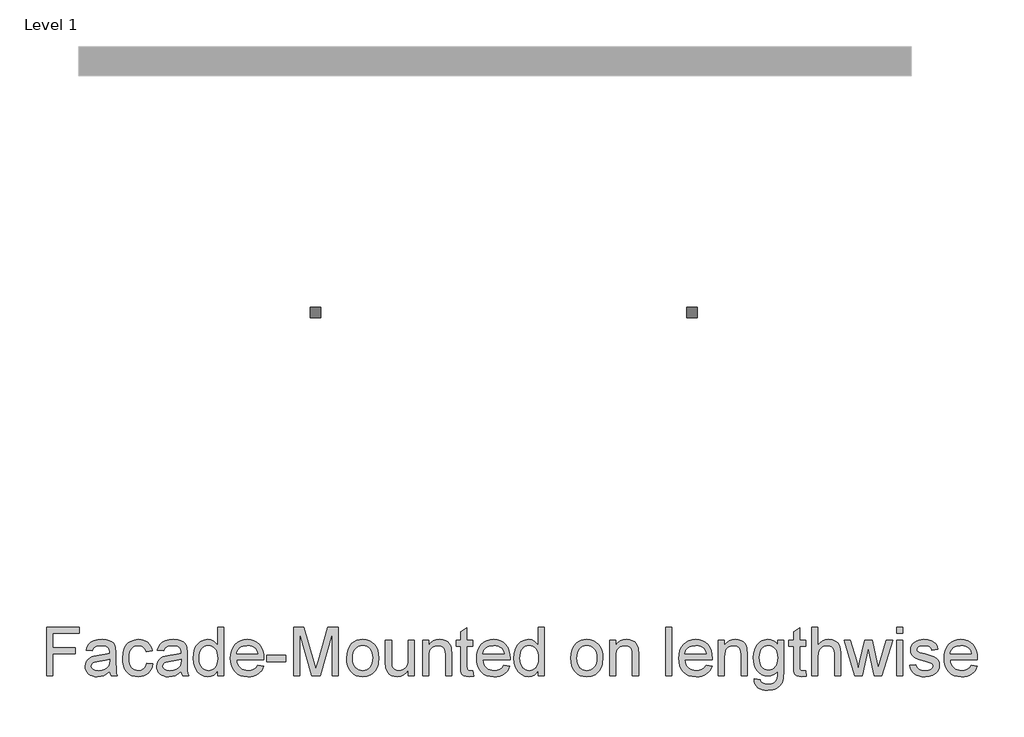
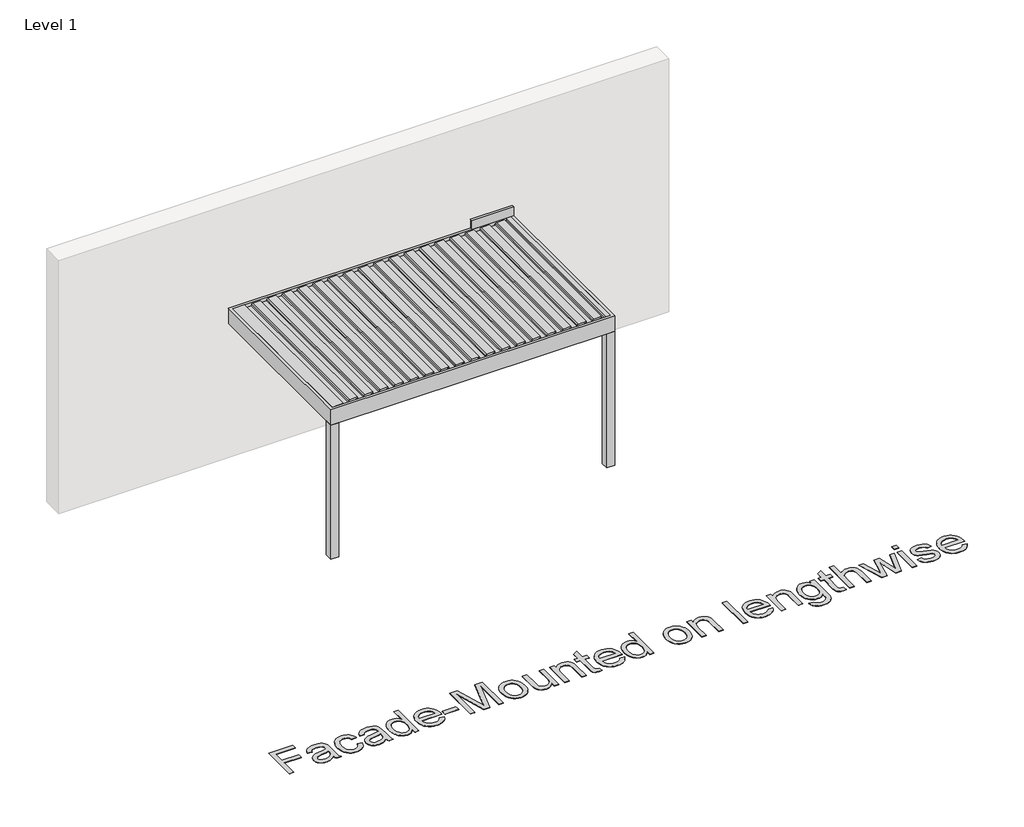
# One storey, part 21 of 47: 2 proxies.
"""IFC4 building model written with IfcOpenShell, lengths in millimetres."""

from ifc_helpers import new_model, si_unit, origin, origin_with_axes, place, context, project, spatial, polyline, outline, extrude, transform, mapped, element, save
from components import generic_models_a0bb761a

model = new_model("IFC4")

# Units and contexts
model_context = context("Model", 3, world=origin())
ifc_project = project(units=[si_unit("LENGTHUNIT", "METRE", prefix="MILLI")], contexts=[model_context])

# Site, building, storey
site = spatial("IfcSite", under=ifc_project)
building = spatial("IfcBuilding", under=site)
storey = spatial("IfcBuildingStorey", under=building, Name="Level 1", Elevation=0.0)

# Proxies
placement = place(None, origin())
generic_models_shape = generic_models_a0bb761a(model_context)
element("IfcBuildingElementProxy", 1, Name="Renson_Algarve_Single : Algarve - Single", ObjectType="Renson_Algarve_Single : Algarve - Single", at=placement, inside=storey, context=model_context, shape_type="MappedRepresentation", body=[
    mapped(generic_models_shape, transform((-9296.834943, 40772.1593685, 0.0), x_axis=(1.0, 0.0, 0.0), y_axis=(0.0, 1.0, 0.0), z_axis=(0.0, 0.0, 1.0))),
])
element("IfcBuildingElementProxy", 2, Name="500mm Arial", ObjectType="500mm Arial", at=placement, inside=storey, context=model_context, shape_type="SweptSolid", body=[
    extrude(outline(polyline([(-14018.8098786, 35822.1593685), (-14018.8098786, 36324.4409192), (-13681.3394617, 36324.4409192), (-13681.3394617, 36261.6557254), (-13956.0246848, 36261.6557254), (-13956.0246848, 36112.54089), (-13720.5802079, 36112.54089), (-13720.5802079, 36049.7556962), (-13956.0246848, 36049.7556962), (-13956.0246848, 35822.1593685), (-14018.8098786, 35822.1593685)])), origin_with_axes(), (0.0, 0.0, 1.0), 5.0),
    extrude(outline(polyline([(-13367.4134925, 35869.2482639), (-13397.4112035, 35843.527181), (-13428.2979627, 35826.6965797), (-13460.7788772, 35817.4075594), (-13495.5590542, 35814.3112192), (-13523.5142537, 35816.1736218), (-13548.0282237, 35821.7608296), (-13569.1009643, 35831.0728426), (-13586.7324753, 35844.1096608), (-13600.6545096, 35860.0435498), (-13610.5988198, 35878.0467749), (-13616.5654059, 35898.1193363), (-13618.5542679, 35920.2612339), (-13615.5498983, 35946.288885), (-13606.5367894, 35969.9253032), (-13592.6339157, 35990.1588129), (-13574.9602515, 36005.9777387), (-13554.1902472, 36017.9339036), (-13530.998353, 36026.5791305), (-13476.6744451, 36036.021435), (-13412.4790369, 36045.9542489), (-13367.7813745, 36057.6038454), (-13367.4134925, 36071.5833612), (-13371.736106, 36099.6037065), (-13384.7039463, 36117.9364926), (-13397.7790855, 36125.8766123), (-13413.7053102, 36131.5481264), (-13454.1110161, 36136.0853377), (-13491.5123522, 36133.0656396), (-13517.6319739, 36124.0065455), (-13535.4435938, 36107.2525863), (-13547.9209248, 36081.1482931), (-13610.7061187, 36088.9964423), (-13599.8076146, 36123.3320952), (-13583.5441647, 36150.3101082), (-13560.3982558, 36170.9421567), (-13528.8523747, 36186.2399164), (-13490.2707505, 36195.7128777), (-13446.0176122, 36198.8705315), (-13403.573227, 36196.0807597), (-13369.9273528, 36187.7114443), (-13344.5588236, 36175.1268144), (-13326.9464731, 36159.691099), (-13315.2662197, 36140.6072205), (-13307.693982, 36117.0781013), (-13304.6282987, 36062.1410567), (-13304.6282987, 35984.0274463), (-13301.4399881, 35874.9504348), (-13296.7188358, 35847.9877502), (-13288.9320002, 35822.1593685), (-13351.7171941, 35822.1593685), (-13361.7726353, 35843.9870335), (-13367.4134925, 35869.2482639)]), holes=[polyline([(-13367.4134925, 35994.8186515), (-13409.5972946, 35984.3646715), (-13468.7036685, 35975.5661605), (-13522.7210082, 35965.3880919), (-13536.7771661, 35958.4289908), (-13547.1851608, 35948.8334021), (-13553.6230957, 35937.3370898), (-13555.7690741, 35924.6758178), (-13551.093907, 35906.0058065), (-13537.068406, 35890.7080469), (-13513.9991392, 35880.4993215), (-13482.192675, 35877.0964131), (-13448.4701588, 35880.8518751), (-13418.6717172, 35892.1182612), (-13394.5141328, 35908.7189363), (-13377.7141884, 35928.4772651), (-13370.264578, 35948.8334021), (-13367.7813745, 35977.0376884), (-13367.4134925, 35994.8186515)])]), origin_with_axes(), (0.0, 0.0, 1.0), 5.0),
    extrude(outline(polyline([(-12982.8541802, 35955.5779054), (-12920.0689864, 35947.7297562), (-12926.8977959, 35918.1037592), (-12937.574038, 35891.888335), (-12952.0977126, 35869.0834834), (-12970.4688197, 35849.6892044), (-12991.9132744, 35834.2113359), (-13015.6569915, 35823.1557155), (-13041.699971, 35816.5223433), (-13070.0422131, 35814.3112192), (-13105.2554178, 35817.3960631), (-13136.8281236, 35826.6505945), (-13164.7603305, 35842.0748136), (-13189.0520385, 35863.6687203), (-13208.7145647, 35891.0261115), (-13222.7592263, 35923.7407844), (-13231.1860233, 35961.8127388), (-13233.9949556, 36005.2419747), (-13229.1971613, 36061.1140528), (-13214.8037782, 36109.5365204), (-13203.9512593, 36130.4866336), (-13190.5848802, 36148.6393108), (-13174.7046407, 36163.994552), (-13156.310541, 36176.5523572), (-13115.3070269, 36193.2909879), (-13070.9006044, 36198.8705315), (-13043.0450396, 36196.9544795), (-13017.848955, 36191.2063233), (-12995.3123507, 36181.626063), (-12975.4352267, 36168.2136986), (-12958.554808, 36151.2757984), (-12945.00832, 36131.1189308), (-12934.7957625, 36107.7430956), (-12927.9171356, 36081.1482931), (-12990.7023295, 36073.3001438), (-13002.0913429, 36100.6920241), (-13019.8263207, 36120.3277256), (-13042.9262444, 36132.1459347), (-13070.4100951, 36136.0853377), (-13091.7434187, 36134.146293), (-13110.9844135, 36128.329159), (-13128.1330794, 36118.6339355), (-13143.1894165, 36105.0606228), (-13155.4483175, 36087.2949881), (-13164.2046754, 36065.022799), (-13169.4584902, 36038.2440554), (-13171.2097618, 36006.9587574), (-13169.4968112, 35975.2021106), (-13164.3579596, 35948.1129666), (-13155.7932069, 35925.6913254), (-13143.8025531, 35907.937187), (-13129.0451202, 35894.4443484), (-13112.18003, 35884.8066066), (-13093.2072825, 35879.0239615), (-13072.1268777, 35877.0964131), (-13039.6153064, 35881.9095359), (-13012.9591902, 35896.3489042), (-13002.1794813, 35907.2704009), (-12993.5687433, 35920.7824), (-12982.8541802, 35955.5779054)])), origin_with_axes(), (0.0, 0.0, 1.0), 5.0),
    extrude(outline(polyline([(-12629.6874649, 35869.2482639), (-12659.6851759, 35843.527181), (-12690.5719351, 35826.6965797), (-12723.0528496, 35817.4075594), (-12757.8330265, 35814.3112192), (-12785.788226, 35816.1736218), (-12810.3021961, 35821.7608296), (-12831.3749366, 35831.0728426), (-12849.0064477, 35844.1096608), (-12862.9284819, 35860.0435498), (-12872.8727921, 35878.0467749), (-12878.8393782, 35898.1193363), (-12880.8282402, 35920.2612339), (-12877.8238706, 35946.288885), (-12868.8107617, 35969.9253032), (-12854.907888, 35990.1588129), (-12837.2342238, 36005.9777387), (-12816.4642195, 36017.9339036), (-12793.2723254, 36026.5791305), (-12738.9484174, 36036.021435), (-12674.7530093, 36045.9542489), (-12630.0553469, 36057.6038454), (-12629.6874649, 36071.5833612), (-12634.0100783, 36099.6037065), (-12646.9779186, 36117.9364926), (-12660.0530579, 36125.8766123), (-12675.9792826, 36131.5481264), (-12716.3849884, 36136.0853377), (-12753.7863246, 36133.0656396), (-12779.9059462, 36124.0065455), (-12797.7175662, 36107.2525863), (-12810.1948972, 36081.1482931), (-12872.980091, 36088.9964423), (-12862.0815869, 36123.3320952), (-12845.818137, 36150.3101082), (-12822.6722282, 36170.9421567), (-12791.1263471, 36186.2399164), (-12752.5447228, 36195.7128777), (-12708.2915845, 36198.8705315), (-12665.8471993, 36196.0807597), (-12632.2013252, 36187.7114443), (-12606.8327959, 36175.1268144), (-12589.2204454, 36159.691099), (-12577.540192, 36140.6072205), (-12569.9679543, 36117.0781013), (-12566.902271, 36062.1410567), (-12566.902271, 35984.0274463), (-12563.7139604, 35874.9504348), (-12558.9928081, 35847.9877502), (-12551.2059726, 35822.1593685), (-12613.9911664, 35822.1593685), (-12624.0466076, 35843.9870335), (-12629.6874649, 35869.2482639)]), holes=[polyline([(-12629.6874649, 35994.8186515), (-12671.871267, 35984.3646715), (-12730.9776409, 35975.5661605), (-12784.9949805, 35965.3880919), (-12799.0511384, 35958.4289908), (-12809.4591332, 35948.8334021), (-12815.8970681, 35937.3370898), (-12818.0430464, 35924.6758178), (-12813.3678794, 35906.0058065), (-12799.3423783, 35890.7080469), (-12776.2731115, 35880.4993215), (-12744.4666474, 35877.0964131), (-12710.7441311, 35880.8518751), (-12680.9456895, 35892.1182612), (-12656.7881052, 35908.7189363), (-12639.9881607, 35928.4772651), (-12632.5385503, 35948.8334021), (-12630.0553469, 35977.0376884), (-12629.6874649, 35994.8186515)])]), origin_with_axes(), (0.0, 0.0, 1.0), 5.0),
    extrude(outline(polyline([(-12252.9763018, 35822.1593685), (-12252.9763018, 35881.3883697), (-12271.7612762, 35852.0421164), (-12294.5163104, 35831.0805069), (-12321.2414045, 35818.5035411), (-12351.9365585, 35814.3112192), (-12392.5262053, 35820.3812722), (-12429.6822868, 35838.5914309), (-12461.1361974, 35867.669437), (-12484.6193314, 35906.3430317), (-12499.2426407, 35953.0487167), (-12504.1170772, 36006.2229934), (-12499.6258511, 36058.7381482), (-12486.1521731, 36106.1642687), (-12476.0507466, 36127.2944908), (-12463.7113714, 36145.8035537), (-12449.1340473, 36161.6914574), (-12432.3187744, 36174.9582018), (-12394.3502869, 36192.8924491), (-12352.1818132, 36198.8705315), (-12321.4636666, 36194.5939033), (-12294.3017126, 36181.7640188), (-12271.2784311, 36162.0976604), (-12252.9763018, 36137.311611), (-12252.9763018, 36324.4409192), (-12190.191108, 36324.4409192), (-12190.191108, 35822.1593685), (-12252.9763018, 35822.1593685)]), holes=[polyline([(-12441.3318833, 36006.4682481), (-12439.5614512, 35976.0221808), (-12434.2501549, 35949.676465), (-12425.3979944, 35927.4311007), (-12413.0049697, 35909.2860877), (-12398.2053836, 35895.203105), (-12382.1335389, 35885.1438317), (-12364.7894357, 35879.1082677), (-12346.1730739, 35877.0964131), (-12327.4685737, 35879.0162972), (-12310.2279373, 35884.7759497), (-12294.4511647, 35894.3753705), (-12280.1382558, 35907.8145597), (-12268.2549009, 35925.2008161), (-12259.7667903, 35946.6414386), (-12254.6739239, 35972.1364273), (-12252.9763018, 36001.6857821), (-12254.7045808, 36034.0823903), (-12259.8894176, 36061.8651452), (-12268.5308124, 36085.0340466), (-12280.6287651, 36103.5890948), (-12295.2559065, 36117.8062011), (-12311.4848674, 36127.961277), (-12329.3156479, 36134.0543225), (-12348.7482479, 36136.0853377), (-12367.7324917, 36134.1347967), (-12385.0765949, 36128.2831737), (-12400.7805576, 36118.5304687), (-12414.8443797, 36104.8766818), (-12426.4326625, 36087.0229087), (-12434.7100074, 36064.6702454), (-12439.6764144, 36037.8186918), (-12441.3318833, 36006.4682481)])]), origin_with_axes(), (0.0, 0.0, 1.0), 5.0),
    extrude(outline(polyline([(-11837.7601566, 35932.0334577), (-11776.2012361, 35924.1853085), (-11785.6397085, 35899.5295506), (-11798.3814547, 35877.8015202), (-11814.4264746, 35859.0012174), (-11833.7747683, 35843.1286422), (-11856.2270663, 35830.5210197), (-11881.5840993, 35821.515575), (-11909.8458671, 35816.1123082), (-11941.0123699, 35814.3112192), (-11979.9695403, 35817.4190557), (-12014.6807394, 35826.742565), (-12045.1459671, 35842.2817472), (-12071.3652235, 35864.0366023), (-12092.4494604, 35891.4016577), (-12107.5096295, 35923.7714412), (-12116.545731, 35961.1459527), (-12119.5577649, 36003.5251921), (-12116.5150742, 36047.3414706), (-12107.3870022, 36085.9614158), (-12092.1735489, 36119.3850279), (-12070.8747142, 36147.6123069), (-12044.7244357, 36170.0377802), (-12014.9566509, 36186.0559754), (-11981.5713599, 36195.6668925), (-11944.5685625, 36198.8705315), (-11908.7575495, 36195.6745567), (-11876.3724377, 36186.0866322), (-11847.4132268, 36170.106758), (-11821.8799171, 36147.7349342), (-11801.0371028, 36119.5689689), (-11786.1493783, 36086.2066705), (-11777.2167436, 36047.6480389), (-11774.2391987, 36003.8930741), (-11774.6070807, 35986.9705023), (-12056.772571, 35986.9705023), (-12053.1359042, 35961.9162056), (-12045.9047238, 35939.9735774), (-12035.0790296, 35921.1426178), (-12020.6588218, 35905.4233267), (-12003.4411781, 35893.030302), (-11984.2231759, 35884.1781415), (-11963.0048154, 35878.8668452), (-11939.7860966, 35877.0964131), (-11906.3701487, 35880.3766942), (-11878.227176, 35890.2175376), (-11855.3571787, 35907.2320799), (-11837.7601566, 35932.0334577)]), holes=[polyline([(-12056.772571, 36049.7556962), (-11837.0243926, 36049.7556962), (-11845.5163353, 36082.9263894), (-11862.1629956, 36106.6547781), (-11879.2848368, 36119.5306479), (-11898.7672541, 36128.7276978), (-11920.6102476, 36134.2459277), (-11944.8138172, 36136.0853377), (-11987.135575, 36130.2145542), (-12005.5488353, 36122.8760748), (-12022.1303498, 36112.6022037), (-12036.0447199, 36099.8681217), (-12046.4565468, 36085.1490098), (-12053.3658305, 36068.4448679), (-12056.772571, 36049.7556962)])]), origin_with_axes(), (0.0, 0.0, 1.0), 5.0),
    extrude(outline(polyline([(-11742.8466018, 35971.2742038), (-11742.8466018, 36034.0593977), (-11546.6428711, 36034.0593977), (-11546.6428711, 35971.2742038), (-11742.8466018, 35971.2742038)])), origin_with_axes(), (0.0, 0.0, 1.0), 5.0),
    extrude(outline(polyline([(-11468.1613788, 35822.1593685), (-11468.1613788, 36324.4409192), (-11360.1266995, 36324.4409192), (-11257.3649955, 35970.4158125), (-11236.6409765, 35896.4715315), (-11214.2001748, 35976.5471791), (-11113.1552534, 36324.4409192), (-11005.1205742, 36324.4409192), (-11005.1205742, 35822.1593685), (-11067.905768, 35822.1593685), (-11067.905768, 36261.6557254), (-11194.0892923, 35822.1593685), (-11279.1926606, 35822.1593685), (-11405.3761849, 36261.6557254), (-11405.3761849, 35822.1593685), (-11468.1613788, 35822.1593685)])), origin_with_axes(), (0.0, 0.0, 1.0), 5.0),
    extrude(outline(polyline([(-10918.7909326, 36006.5908754), (-10915.3956884, 36054.3618853), (-10905.2099556, 36095.5263477), (-10888.2337344, 36130.0842626), (-10864.4670247, 36158.0356301), (-10840.5393666, 36175.9008995), (-10814.128505, 36188.6618062), (-10785.23444, 36196.3183502), (-10753.8571715, 36198.8705315), (-10719.2187823, 36195.7626951), (-10687.8989954, 36186.4391858), (-10659.8978106, 36170.9000036), (-10635.215228, 36149.1451485), (-10615.0698567, 36121.9103846), (-10600.6803057, 36089.9314757), (-10592.0465751, 36053.208422), (-10589.1686649, 36011.7412233), (-10594.2576992, 35948.312236), (-10600.618992, 35922.2769206), (-10609.524802, 35900.0277241), (-10620.8639981, 35880.809722), (-10634.5254493, 35863.8679897), (-10650.5091555, 35849.2025272), (-10668.8151169, 35836.8133346), (-10709.5427195, 35819.9367481), (-10753.8571715, 35814.3112192), (-10789.0013983, 35817.4075594), (-10820.6124252, 35826.6965797), (-10848.690252, 35842.1782804), (-10873.2348789, 35863.8526613), (-10893.1656524, 35891.3518404), (-10907.4019192, 35924.3079358), (-10915.9436793, 35962.7209475), (-10918.7909326, 36006.5908754)]), holes=[polyline([(-10856.0057388, 36006.7135027), (-10854.1893214, 35976.2597713), (-10848.7400694, 35949.8910629), (-10839.6579826, 35927.6073774), (-10826.9430612, 35909.408715), (-10811.4766889, 35895.2720829), (-10794.1402499, 35885.1744886), (-10774.9337441, 35879.115932), (-10753.8571715, 35877.0964131), (-10732.8878977, 35879.1274283), (-10713.758034, 35885.2204738), (-10696.4675802, 35895.3755497), (-10681.0165364, 35909.592656), (-10668.301615, 35927.9714273), (-10659.2195282, 35950.6114985), (-10653.7702761, 35977.5128693), (-10651.9538588, 36008.67554), (-10653.7817725, 36038.1635812), (-10659.2655134, 36063.8425109), (-10668.4050818, 36085.7123291), (-10681.2004774, 36103.7730358), (-10696.7090028, 36117.9096679), (-10713.9879602, 36128.0072622), (-10733.0373498, 36134.0658188), (-10753.8571715, 36136.0853377), (-10774.9337441, 36134.073483), (-10794.1402499, 36128.037919), (-10811.4766889, 36117.9786457), (-10826.9430612, 36103.8956631), (-10839.6579826, 36085.7506501), (-10848.7400694, 36063.5052857), (-10854.1893214, 36037.1595699), (-10856.0057388, 36006.7135027)])]), origin_with_axes(), (0.0, 0.0, 1.0), 5.0),
    extrude(outline(polyline([(-10283.090845, 35822.1593685), (-10283.090845, 35885.557699), (-10305.8075582, 35854.3873641), (-10332.264405, 35832.1228392), (-10362.4613854, 35818.7641242), (-10396.3984995, 35814.3112192), (-10426.9786903, 35817.4382162), (-10455.4435597, 35826.8192071), (-10479.3252326, 35840.9213502), (-10496.1558338, 35858.211804), (-10507.4835336, 35879.2117346), (-10514.8565019, 35904.4423081), (-10518.5353219, 35962.812918), (-10518.5353219, 36191.0223823), (-10455.750128, 36191.0223823), (-10455.750128, 35992.3661049), (-10451.9486807, 35928.3546377), (-10442.7976161, 35907.0021536), (-10427.1166461, 35890.7693606), (-10405.9481029, 35880.51465), (-10380.334319, 35877.0964131), (-10353.2490071, 35880.591292), (-10327.9111347, 35891.0759289), (-10307.0185031, 35907.5846334), (-10293.2689135, 35929.1517154), (-10285.6353621, 35958.6895739), (-10283.090845, 35999.1106081), (-10283.090845, 36191.0223823), (-10220.3056511, 36191.0223823), (-10220.3056511, 35822.1593685), (-10283.090845, 35822.1593685)])), origin_with_axes(), (0.0, 0.0, 1.0), 5.0),
    extrude(outline(polyline([(-10133.9760096, 35822.1593685), (-10133.9760096, 36191.0223823), (-10071.1908157, 36191.0223823), (-10071.1908157, 36139.518903), (-10049.3784791, 36165.4852405), (-10023.1822154, 36184.0326244), (-9992.6020245, 36195.1610547), (-9957.6379066, 36198.8705315), (-9926.6898337, 36195.8814903), (-9898.3475917, 36186.9143667), (-9874.7111735, 36173.088135), (-9857.8805722, 36155.5217698), (-9846.4609019, 36134.2612561), (-9839.0572768, 36109.3525794), (-9835.7463388, 36048.6520502), (-9835.7463388, 35822.1593685), (-9898.5315327, 35822.1593685), (-9898.5315327, 36040.1907643), (-9900.3402858, 36072.6563504), (-9905.7665452, 36095.7409455), (-9915.7760012, 36112.2803069), (-9931.3343439, 36125.1101915), (-9951.2766137, 36133.3415511), (-9974.437851, 36136.0853377), (-9993.502569, 36134.5448318), (-10011.2107221, 36129.9233143), (-10027.5623104, 36122.220785), (-10042.5573338, 36111.437244), (-10055.0844821, 36096.346418), (-10064.0324452, 36075.7220336), (-10069.4012231, 36049.5640909), (-10071.1908157, 36017.8725899), (-10071.1908157, 35822.1593685), (-10133.9760096, 35822.1593685)])), origin_with_axes(), (0.0, 0.0, 1.0), 5.0),
    extrude(outline(polyline([(-9615.9981604, 35874.5212391), (-9608.1500111, 35820.3199585), (-9655.1162792, 35814.3112192), (-9685.251946, 35816.91705), (-9707.7234045, 35824.7345424), (-9723.603644, 35836.7826778), (-9733.9656535, 35852.0804374), (-9739.6678244, 35878.3533432), (-9741.5685481, 35923.3269171), (-9741.5685481, 36128.2371885), (-9788.6574434, 36128.2371885), (-9788.6574434, 36191.0223823), (-9741.5685481, 36191.0223823), (-9741.5685481, 36280.6629618), (-9678.7833542, 36317.5737886), (-9678.7833542, 36191.0223823), (-9615.9981604, 36191.0223823), (-9615.9981604, 36128.2371885), (-9678.7833542, 36128.2371885), (-9678.7833542, 35925.1663271), (-9675.4724163, 35892.7927115), (-9664.7425247, 35881.327056), (-9643.3440553, 35877.0964131), (-9615.9981604, 35874.5212391)])), origin_with_axes(), (0.0, 0.0, 1.0), 5.0),
    extrude(outline(polyline([(-9294.9598059, 35932.0334577), (-9233.4008854, 35924.1853085), (-9242.8393578, 35899.5295506), (-9255.581104, 35877.8015202), (-9271.626124, 35859.0012174), (-9290.9744176, 35843.1286422), (-9313.4267157, 35830.5210197), (-9338.7837486, 35821.515575), (-9367.0455164, 35816.1123082), (-9398.2120192, 35814.3112192), (-9437.1691897, 35817.4190557), (-9471.8803888, 35826.742565), (-9502.3456165, 35842.2817472), (-9528.5648729, 35864.0366023), (-9549.6491097, 35891.4016577), (-9564.7092789, 35923.7714412), (-9573.7453804, 35961.1459527), (-9576.7574142, 36003.5251921), (-9573.7147236, 36047.3414706), (-9564.5866515, 36085.9614158), (-9549.3731982, 36119.3850279), (-9528.0743635, 36147.6123069), (-9501.924085, 36170.0377802), (-9472.1563003, 36186.0559754), (-9438.7710092, 36195.6668925), (-9401.7682118, 36198.8705315), (-9365.9571989, 36195.6745567), (-9333.572087, 36186.0866322), (-9304.6128762, 36170.106758), (-9279.0795665, 36147.7349342), (-9258.2367522, 36119.5689689), (-9243.3490277, 36086.2066705), (-9234.416393, 36047.6480389), (-9231.4388481, 36003.8930741), (-9231.8067301, 35986.9705023), (-9513.9722204, 35986.9705023), (-9510.3355536, 35961.9162056), (-9503.1043731, 35939.9735774), (-9492.278679, 35921.1426178), (-9477.8584712, 35905.4233267), (-9460.6408274, 35893.030302), (-9441.4228252, 35884.1781415), (-9420.2044648, 35878.8668452), (-9396.9857459, 35877.0964131), (-9363.569798, 35880.3766942), (-9335.4268254, 35890.2175376), (-9312.556828, 35907.2320799), (-9294.9598059, 35932.0334577)]), holes=[polyline([(-9513.9722204, 36049.7556962), (-9294.2240419, 36049.7556962), (-9302.7159846, 36082.9263894), (-9319.3626449, 36106.6547781), (-9336.4844861, 36119.5306479), (-9355.9669034, 36128.7276978), (-9377.8098969, 36134.2459277), (-9402.0134665, 36136.0853377), (-9444.3352244, 36130.2145542), (-9462.7484847, 36122.8760748), (-9479.3299992, 36112.6022037), (-9493.2443692, 36099.8681217), (-9503.6561961, 36085.1490098), (-9510.5654798, 36068.4448679), (-9513.9722204, 36049.7556962)])]), origin_with_axes(), (0.0, 0.0, 1.0), 5.0),
    extrude(outline(polyline([(-8941.0573266, 35822.1593685), (-8941.0573266, 35881.3883697), (-8959.8423009, 35852.0421164), (-8982.5973352, 35831.0805069), (-9009.3224293, 35818.5035411), (-9040.0175833, 35814.3112192), (-9080.6072301, 35820.3812722), (-9117.7633116, 35838.5914309), (-9149.2172222, 35867.669437), (-9172.7003562, 35906.3430317), (-9187.3236655, 35953.0487167), (-9192.1981019, 36006.2229934), (-9187.7068759, 36058.7381482), (-9174.2331978, 36106.1642687), (-9164.1317714, 36127.2944908), (-9151.7923961, 36145.8035537), (-9137.2150721, 36161.6914574), (-9120.3997992, 36174.9582018), (-9082.4313116, 36192.8924491), (-9040.2628379, 36198.8705315), (-9009.5446913, 36194.5939033), (-8982.3827373, 36181.7640188), (-8959.3594558, 36162.0976604), (-8941.0573266, 36137.311611), (-8941.0573266, 36324.4409192), (-8878.2721327, 36324.4409192), (-8878.2721327, 35822.1593685), (-8941.0573266, 35822.1593685)]), holes=[polyline([(-9129.4129081, 36006.4682481), (-9127.642476, 35976.0221808), (-9122.3311797, 35949.676465), (-9113.4790192, 35927.4311007), (-9101.0859945, 35909.2860877), (-9086.2864084, 35895.203105), (-9070.2145637, 35885.1438317), (-9052.8704605, 35879.1082677), (-9034.2540987, 35877.0964131), (-9015.5495985, 35879.0162972), (-8998.3089621, 35884.7759497), (-8982.5321894, 35894.3753705), (-8968.2192805, 35907.8145597), (-8956.3359257, 35925.2008161), (-8947.847815, 35946.6414386), (-8942.7549487, 35972.1364273), (-8941.0573266, 36001.6857821), (-8942.7856055, 36034.0823903), (-8947.9704424, 36061.8651452), (-8956.6118372, 36085.0340466), (-8968.7097899, 36103.5890948), (-8983.3369313, 36117.8062011), (-8999.5658922, 36127.961277), (-9017.3966727, 36134.0543225), (-9036.8292726, 36136.0853377), (-9055.8135164, 36134.1347967), (-9073.1576197, 36128.2831737), (-9088.8615823, 36118.5304687), (-9102.9254044, 36104.8766818), (-9114.5136873, 36087.0229087), (-9122.7910322, 36064.6702454), (-9127.7574391, 36037.8186918), (-9129.4129081, 36006.4682481)])]), origin_with_axes(), (0.0, 0.0, 1.0), 5.0),
    extrude(outline(polyline([(-8603.5869096, 36006.5908754), (-8600.1916654, 36054.3618853), (-8590.0059327, 36095.5263477), (-8573.0297114, 36130.0842626), (-8549.2630017, 36158.0356301), (-8525.3353436, 36175.9008995), (-8498.924482, 36188.6618062), (-8470.030417, 36196.3183502), (-8438.6531485, 36198.8705315), (-8404.0147594, 36195.7626951), (-8372.6949724, 36186.4391858), (-8344.6937876, 36170.9000036), (-8320.011205, 36149.1451485), (-8299.8658337, 36121.9103846), (-8285.4762827, 36089.9314757), (-8276.8425522, 36053.208422), (-8273.964642, 36011.7412233), (-8279.0536762, 35948.312236), (-8285.4149691, 35922.2769206), (-8294.320779, 35900.0277241), (-8305.6599751, 35880.809722), (-8319.3214263, 35863.8679897), (-8335.3051326, 35849.2025272), (-8353.6110939, 35836.8133346), (-8394.3386965, 35819.9367481), (-8438.6531485, 35814.3112192), (-8473.7973753, 35817.4075594), (-8505.4084022, 35826.6965797), (-8533.486229, 35842.1782804), (-8558.0308559, 35863.8526613), (-8577.9616294, 35891.3518404), (-8592.1978962, 35924.3079358), (-8600.7396563, 35962.7209475), (-8603.5869096, 36006.5908754)]), holes=[polyline([(-8540.8017158, 36006.7135027), (-8538.9852985, 35976.2597713), (-8533.5360464, 35949.8910629), (-8524.4539596, 35927.6073774), (-8511.7390382, 35909.408715), (-8496.272666, 35895.2720829), (-8478.9362269, 35885.1744886), (-8459.7297211, 35879.115932), (-8438.6531485, 35877.0964131), (-8417.6838748, 35879.1274283), (-8398.554011, 35885.2204738), (-8381.2635572, 35895.3755497), (-8365.8125134, 35909.592656), (-8353.097592, 35927.9714273), (-8344.0155052, 35950.6114985), (-8338.5662532, 35977.5128693), (-8336.7498358, 36008.67554), (-8338.5777495, 36038.1635812), (-8344.0614905, 36063.8425109), (-8353.2010588, 36085.7123291), (-8365.9964544, 36103.7730358), (-8381.5049798, 36117.9096679), (-8398.7839372, 36128.0072622), (-8417.8333268, 36134.0658188), (-8438.6531485, 36136.0853377), (-8459.7297211, 36134.073483), (-8478.9362269, 36128.037919), (-8496.272666, 36117.9786457), (-8511.7390382, 36103.8956631), (-8524.4539596, 36085.7506501), (-8533.5360464, 36063.5052857), (-8538.9852985, 36037.1595699), (-8540.8017158, 36006.7135027)])]), origin_with_axes(), (0.0, 0.0, 1.0), 5.0),
    extrude(outline(polyline([(-8203.3312989, 35822.1593685), (-8203.3312989, 36191.0223823), (-8140.5461051, 36191.0223823), (-8140.5461051, 36139.518903), (-8118.7337684, 36165.4852405), (-8092.5375047, 36184.0326244), (-8061.9573138, 36195.1610547), (-8026.9931959, 36198.8705315), (-7996.045123, 36195.8814903), (-7967.702881, 36186.9143667), (-7944.0664628, 36173.088135), (-7927.2358615, 36155.5217698), (-7915.8161912, 36134.2612561), (-7908.4125661, 36109.3525794), (-7905.1016281, 36048.6520502), (-7905.1016281, 35822.1593685), (-7967.886822, 35822.1593685), (-7967.886822, 36040.1907643), (-7969.6955751, 36072.6563504), (-7975.1218346, 36095.7409455), (-7985.1312905, 36112.2803069), (-8000.6896332, 36125.1101915), (-8020.631903, 36133.3415511), (-8043.7931403, 36136.0853377), (-8062.8578583, 36134.5448318), (-8080.5660114, 36129.9233143), (-8096.9175997, 36122.220785), (-8111.9126231, 36111.437244), (-8124.4397714, 36096.346418), (-8133.3877346, 36075.7220336), (-8138.7565124, 36049.5640909), (-8140.5461051, 36017.8725899), (-8140.5461051, 35822.1593685), (-8203.3312989, 35822.1593685)])), origin_with_axes(), (0.0, 0.0, 1.0), 5.0),
    extrude(outline(polyline([(-7622.5682558, 35822.1593685), (-7622.5682558, 36324.4409192), (-7559.783062, 36324.4409192), (-7559.783062, 35822.1593685), (-7622.5682558, 35822.1593685)])), origin_with_axes(), (0.0, 0.0, 1.0), 5.0),
    extrude(outline(polyline([(-7207.3521106, 35932.0334577), (-7145.7931901, 35924.1853085), (-7155.2316625, 35899.5295506), (-7167.9734087, 35877.8015202), (-7184.0184287, 35859.0012174), (-7203.3667223, 35843.1286422), (-7225.8190204, 35830.5210197), (-7251.1760533, 35821.515575), (-7279.4378212, 35816.1123082), (-7310.6043239, 35814.3112192), (-7349.5614944, 35817.4190557), (-7384.2726935, 35826.742565), (-7414.7379212, 35842.2817472), (-7440.9571776, 35864.0366023), (-7462.0414144, 35891.4016577), (-7477.1015836, 35923.7714412), (-7486.1376851, 35961.1459527), (-7489.1497189, 36003.5251921), (-7486.1070283, 36047.3414706), (-7476.9789563, 36085.9614158), (-7461.7655029, 36119.3850279), (-7440.4666682, 36147.6123069), (-7414.3163897, 36170.0377802), (-7384.548605, 36186.0559754), (-7351.1633139, 36195.6668925), (-7314.1605166, 36198.8705315), (-7278.3495036, 36195.6745567), (-7245.9643917, 36186.0866322), (-7217.0051809, 36170.106758), (-7191.4718712, 36147.7349342), (-7170.6290569, 36119.5689689), (-7155.7413324, 36086.2066705), (-7146.8086977, 36047.6480389), (-7143.8311528, 36003.8930741), (-7144.1990348, 35986.9705023), (-7426.3645251, 35986.9705023), (-7422.7278583, 35961.9162056), (-7415.4966778, 35939.9735774), (-7404.6709837, 35921.1426178), (-7390.2507759, 35905.4233267), (-7373.0331321, 35893.030302), (-7353.8151299, 35884.1781415), (-7332.5967695, 35878.8668452), (-7309.3780506, 35877.0964131), (-7275.9621027, 35880.3766942), (-7247.8191301, 35890.2175376), (-7224.9491327, 35907.2320799), (-7207.3521106, 35932.0334577)]), holes=[polyline([(-7426.3645251, 36049.7556962), (-7206.6163466, 36049.7556962), (-7215.1082894, 36082.9263894), (-7231.7549496, 36106.6547781), (-7248.8767908, 36119.5306479), (-7268.3592082, 36128.7276978), (-7290.2022016, 36134.2459277), (-7314.4057712, 36136.0853377), (-7356.7275291, 36130.2145542), (-7375.1407894, 36122.8760748), (-7391.7223039, 36112.6022037), (-7405.6366739, 36099.8681217), (-7416.0485008, 36085.1490098), (-7422.9577845, 36068.4448679), (-7426.3645251, 36049.7556962)])]), origin_with_axes(), (0.0, 0.0, 1.0), 5.0),
    extrude(outline(polyline([(-7081.0459589, 35822.1593685), (-7081.0459589, 36191.0223823), (-7018.2607651, 36191.0223823), (-7018.2607651, 36139.518903), (-6996.4484285, 36165.4852405), (-6970.2521647, 36184.0326244), (-6939.6719739, 36195.1610547), (-6904.7078559, 36198.8705315), (-6873.7597831, 36195.8814903), (-6845.417541, 36186.9143667), (-6821.7811228, 36173.088135), (-6804.9505216, 36155.5217698), (-6793.5308513, 36134.2612561), (-6786.1272261, 36109.3525794), (-6782.8162882, 36048.6520502), (-6782.8162882, 35822.1593685), (-6845.601482, 35822.1593685), (-6845.601482, 36040.1907643), (-6847.4102352, 36072.6563504), (-6852.8364946, 36095.7409455), (-6862.8459506, 36112.2803069), (-6878.4042933, 36125.1101915), (-6898.3465631, 36133.3415511), (-6921.5078004, 36136.0853377), (-6940.5725183, 36134.5448318), (-6958.2806715, 36129.9233143), (-6974.6322597, 36122.220785), (-6989.6272831, 36111.437244), (-7002.1544315, 36096.346418), (-7011.1023946, 36075.7220336), (-7016.4711725, 36049.5640909), (-7018.2607651, 36017.8725899), (-7018.2607651, 35822.1593685), (-7081.0459589, 35822.1593685)])), origin_with_axes(), (0.0, 0.0, 1.0), 5.0),
    extrude(outline(polyline([(-6712.1829451, 35790.7667715), (-6649.3977513, 35782.9186223), (-6642.469307, 35763.2982492), (-6629.0416142, 35749.8092428), (-6602.646081, 35739.3246059), (-6568.0958303, 35735.8297269), (-6531.2463171, 35739.7844584), (-6503.8391085, 35751.6486527), (-6484.8318721, 35770.6558891), (-6473.1822756, 35796.0397468), (-6469.7793671, 35823.0484166), (-6468.890319, 35869.2482639), (-6489.7829506, 35848.6468721), (-6513.0974721, 35833.9315923), (-6538.8338833, 35825.1024244), (-6566.9921843, 35822.1593685), (-6601.4159756, 35825.5852695), (-6631.7240871, 35835.8629728), (-6657.9165187, 35852.9924782), (-6679.9932705, 35876.9737858), (-6697.5098184, 35905.7452235), (-6710.0216384, 35937.2451193), (-6717.5287304, 35971.4734733), (-6720.0310943, 36008.4302854), (-6715.5398683, 36059.1213586), (-6702.0661902, 36105.7350731), (-6680.085241, 36145.2364023), (-6666.0827326, 36161.1817875), (-6650.0722016, 36174.5903198), (-6632.310399, 36185.2129125), (-6613.0540758, 36192.8004786), (-6592.303232, 36197.3530183), (-6570.0578676, 36198.8705315), (-6540.6962859, 36195.4369662), (-6514.0478339, 36185.1362704), (-6490.1125116, 36167.9684439), (-6468.890319, 36143.9334869), (-6468.890319, 36191.0223823), (-6406.1051251, 36191.0223823), (-6406.1051251, 35872.5592018), (-6410.3970817, 35799.028788), (-6415.7620275, 35771.6790609), (-6423.2729516, 35750.6063204), (-6445.4531702, 35718.4932879), (-6477.6581732, 35693.8911795), (-6497.343692, 35684.7707717), (-6519.1828534, 35678.2561947), (-6569.3221037, 35673.0445331), (-6600.0824034, 35674.880111), (-6627.7386988, 35680.3868446), (-6652.2909899, 35689.5647339), (-6673.7392766, 35702.413779), (-6691.0642193, 35718.9493083), (-6703.2464783, 35739.1866501), (-6710.2860536, 35763.1258046), (-6712.1829451, 35790.7667715)]), holes=[polyline([(-6657.2459005, 36012.722242), (-6655.571271, 35981.6783665), (-6650.5473825, 35955.1333813), (-6642.174235, 35933.0872863), (-6630.4518285, 35915.5400816), (-6616.2002333, 35902.1545419), (-6600.2395197, 35892.5934421), (-6582.5696876, 35886.8567823), (-6563.1907371, 35884.9445623), (-6544.0033918, 35886.845286), (-6526.417866, 35892.5474569), (-6510.4341597, 35902.0510751), (-6496.0522729, 35915.3561406), (-6484.1689181, 35932.7309006), (-6475.6808075, 35954.4436026), (-6470.5879411, 35980.4942464), (-6468.890319, 36010.882832), (-6470.6377584, 36040.0029912), (-6475.8800769, 36065.3140389), (-6484.6172743, 36086.8159751), (-6496.8493506, 36104.5087998), (-6511.5416378, 36118.3235351), (-6527.6594677, 36128.1912032), (-6545.2028403, 36134.1118041), (-6564.1717557, 36136.0853377), (-6582.8226065, 36134.1424609), (-6600.0249218, 36128.3138305), (-6615.7787019, 36118.5994466), (-6630.0839465, 36104.9993091), (-6641.9673014, 36087.5747317), (-6650.455412, 36066.387028), (-6655.5482784, 36041.4361981), (-6657.2459005, 36012.722242)])]), origin_with_axes(), (0.0, 0.0, 1.0), 5.0),
    extrude(outline(polyline([(-6178.5087974, 35874.5212391), (-6170.6606482, 35820.3199585), (-6217.6269163, 35814.3112192), (-6247.762583, 35816.91705), (-6270.2340416, 35824.7345424), (-6286.114281, 35836.7826778), (-6296.4762906, 35852.0804374), (-6302.1784615, 35878.3533432), (-6304.0791851, 35923.3269171), (-6304.0791851, 36128.2371885), (-6351.1680805, 36128.2371885), (-6351.1680805, 36191.0223823), (-6304.0791851, 36191.0223823), (-6304.0791851, 36280.6629618), (-6241.2939913, 36317.5737886), (-6241.2939913, 36191.0223823), (-6178.5087974, 36191.0223823), (-6178.5087974, 36128.2371885), (-6241.2939913, 36128.2371885), (-6241.2939913, 35925.1663271), (-6237.9830533, 35892.7927115), (-6227.2531618, 35881.327056), (-6205.8546924, 35877.0964131), (-6178.5087974, 35874.5212391)])), origin_with_axes(), (0.0, 0.0, 1.0), 5.0),
    extrude(outline(polyline([(-6115.7236036, 35822.1593685), (-6115.7236036, 36324.4409192), (-6052.9384098, 36324.4409192), (-6052.9384098, 36139.7641576), (-6029.8768072, 36165.6231962), (-6003.9794476, 36184.0939381), (-5975.2463309, 36195.1763832), (-5943.6774572, 36198.8705315), (-5905.7549549, 36194.839158), (-5873.1667414, 36182.7450374), (-5847.5069723, 36163.5385316), (-5830.3698027, 36138.1700023), (-5820.7129003, 36103.3131833), (-5817.4939328, 36055.6418081), (-5817.4939328, 35822.1593685), (-5880.2791267, 35822.1593685), (-5880.2791267, 36049.1425595), (-5885.2761905, 36088.4446193), (-5891.5225202, 36103.451139), (-5900.2673818, 36115.3613186), (-5911.3038416, 36124.428077), (-5924.4249661, 36130.9043329), (-5956.921209, 36136.0853377), (-5983.4546979, 36132.5904587), (-6008.3633747, 36122.1058219), (-6028.9954232, 36105.6431026), (-6042.6990276, 36084.2139764), (-6050.3785642, 36055.7337786), (-6052.9384098, 36018.1178446), (-6052.9384098, 35822.1593685), (-6115.7236036, 35822.1593685)])), origin_with_axes(), (0.0, 0.0, 1.0), 5.0),
    extrude(outline(polyline([(-5669.9732528, 35822.1593685), (-5782.1772613, 36191.0223823), (-5716.9395208, 36191.0223823), (-5653.2959357, 35975.8114151), (-5634.2886992, 35898.9240781), (-5618.7150281, 35972.9909865), (-5568.0699401, 36191.0223823), (-5493.2672678, 36191.0223823), (-5442.8674344, 35973.6041232), (-5429.0105459, 35906.5269727), (-5409.1449182, 35977.2829431), (-5345.3787057, 36191.0223823), (-5279.8957106, 36191.0223823), (-5392.9581104, 35822.1593685), (-5468.8644287, 35822.1593685), (-5517.0569701, 36038.4739816), (-5531.0364859, 36105.9190141), (-5593.2085431, 35822.1593685), (-5669.9732528, 35822.1593685)])), origin_with_axes(), (0.0, 0.0, 1.0), 5.0),
    extrude(outline(polyline([(-5236.7308898, 35822.1593685), (-5236.7308898, 36191.0223823), (-5173.9456959, 36191.0223823), (-5173.9456959, 35822.1593685), (-5236.7308898, 35822.1593685)])), origin_with_axes(), (0.0, 0.0, 1.0), 5.0),
    extrude(outline(polyline([(-5236.7308898, 36261.6557254), (-5236.7308898, 36324.4409192), (-5173.9456959, 36324.4409192), (-5173.9456959, 36261.6557254), (-5236.7308898, 36261.6557254)])), origin_with_axes(), (0.0, 0.0, 1.0), 5.0),
    extrude(outline(polyline([(-5103.3123529, 35932.0334577), (-5040.527159, 35939.8816069), (-5030.625002, 35913.0262213), (-5011.4644814, 35893.2832209), (-4982.9229699, 35881.143115), (-4944.8778403, 35877.0964131), (-4907.2925631, 35880.8058899), (-4880.8663731, 35891.9343202), (-4865.2313883, 35908.0598143), (-4860.0197267, 35926.7604824), (-4865.2620452, 35942.7633492), (-4880.9890005, 35954.9647687), (-4945.6136043, 35972.8683592), (-5002.911225, 35989.4383774), (-5040.159277, 36003.5865058), (-5064.0869351, 36019.0222211), (-5081.4233742, 36039.4550003), (-5091.9539963, 36063.5819278), (-5095.4642036, 36090.1000883), (-5092.643775, 36114.4262852), (-5084.1824891, 36136.8824153), (-5070.8467668, 36156.5794305), (-5053.4030289, 36172.6282825), (-5036.0665898, 36182.729709), (-5013.4878324, 36191.2063233), (-4987.3835391, 36196.9544795), (-4959.4704928, 36198.8705315), (-4918.6049345, 36195.7895198), (-4883.0736651, 36186.5464847), (-4854.5014968, 36172.0458027), (-4834.5132417, 36153.1918505), (-4821.2694899, 36128.589742), (-4812.9308313, 36096.8445915), (-4875.7160252, 36088.9964423), (-4883.6408165, 36108.7547711), (-4899.3217865, 36123.6386635), (-4922.9122195, 36132.9736691), (-4954.5653995, 36136.0853377), (-4990.617835, 36133.1116249), (-5014.652792, 36124.1904865), (-5028.1724554, 36111.3146167), (-5032.6790098, 36096.4767095), (-5030.808943, 36086.8198072), (-5025.1987426, 36078.2052371), (-5015.6031539, 36070.510372), (-5001.7769222, 36064.3483486), (-4947.6982689, 36050.9819695), (-4855.5438291, 36021.4287825), (-4831.2023038, 36007.2959825), (-4812.7468903, 35987.951521), (-4801.1126222, 35963.3340841), (-4797.2345329, 35933.3823583), (-4801.7870726, 35902.4189571), (-4815.4446916, 35873.2949658), (-4837.6862239, 35848.2943185), (-4867.9905033, 35829.7009494), (-4904.5947618, 35818.1586518), (-4945.7362316, 35814.3112192), (-4979.5277257, 35816.1659576), (-5009.0425916, 35821.7301728), (-5034.2808293, 35831.0038648), (-5055.2424388, 35843.9870335), (-5072.36428, 35860.6183654), (-5086.0832128, 35880.8365467), (-5096.399237, 35904.6415775), (-5103.3123529, 35932.0334577)])), origin_with_axes(), (0.0, 0.0, 1.0), 5.0),
    extrude(outline(polyline([(-4468.3480292, 35932.0334577), (-4406.7891087, 35924.1853085), (-4416.2275811, 35899.5295506), (-4428.9693273, 35877.8015202), (-4445.0143472, 35859.0012174), (-4464.3626409, 35843.1286422), (-4486.8149389, 35830.5210197), (-4512.1719719, 35821.515575), (-4540.4337397, 35816.1123082), (-4571.6002425, 35814.3112192), (-4610.557413, 35817.4190557), (-4645.268612, 35826.742565), (-4675.7338398, 35842.2817472), (-4701.9530961, 35864.0366023), (-4723.037333, 35891.4016577), (-4738.0975022, 35923.7714412), (-4747.1336037, 35961.1459527), (-4750.1456375, 36003.5251921), (-4747.1029468, 36047.3414706), (-4737.9748748, 36085.9614158), (-4722.7614215, 36119.3850279), (-4701.4625868, 36147.6123069), (-4675.3123083, 36170.0377802), (-4645.5445235, 36186.0559754), (-4612.1592325, 36195.6668925), (-4575.1564351, 36198.8705315), (-4539.3454222, 36195.6745567), (-4506.9603103, 36186.0866322), (-4478.0010995, 36170.106758), (-4452.4677897, 36147.7349342), (-4431.6249754, 36119.5689689), (-4416.737251, 36086.2066705), (-4407.8046163, 36047.6480389), (-4404.8270714, 36003.8930741), (-4405.1949534, 35986.9705023), (-4687.3604437, 35986.9705023), (-4683.7237769, 35961.9162056), (-4676.4925964, 35939.9735774), (-4665.6669023, 35921.1426178), (-4651.2466945, 35905.4233267), (-4634.0290507, 35893.030302), (-4614.8110485, 35884.1781415), (-4593.592688, 35878.8668452), (-4570.3739692, 35877.0964131), (-4536.9580213, 35880.3766942), (-4508.8150487, 35890.2175376), (-4485.9450513, 35907.2320799), (-4468.3480292, 35932.0334577)]), holes=[polyline([(-4687.3604437, 36049.7556962), (-4467.6122652, 36049.7556962), (-4476.1042079, 36082.9263894), (-4492.7508682, 36106.6547781), (-4509.8727094, 36119.5306479), (-4529.3551267, 36128.7276978), (-4551.1981202, 36134.2459277), (-4575.4016898, 36136.0853377), (-4617.7234477, 36130.2145542), (-4636.1367079, 36122.8760748), (-4652.7182224, 36112.6022037), (-4666.6325925, 36099.8681217), (-4677.0444194, 36085.1490098), (-4683.9537031, 36068.4448679), (-4687.3604437, 36049.7556962)])]), origin_with_axes(), (0.0, 0.0, 1.0), 5.0),
])

save(model, "model.ifc")
